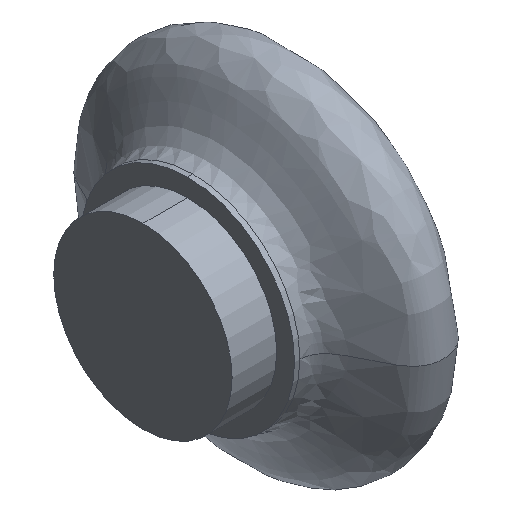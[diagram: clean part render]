
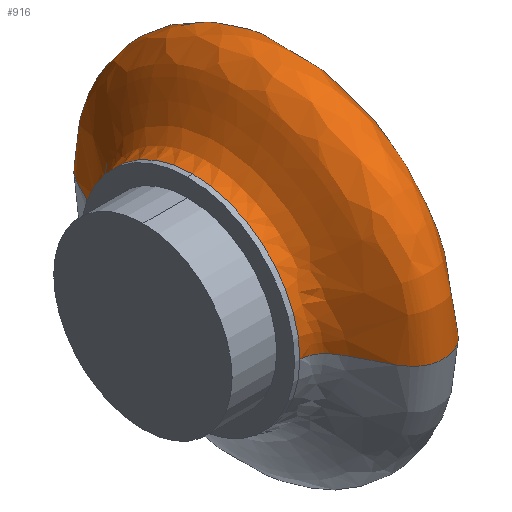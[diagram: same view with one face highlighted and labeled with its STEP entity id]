
A CAD part, isometric view. The second image highlights one B-rep face of the part: STEP entity #916.
In plain terms, the highlighted free-form (B-spline) face has degree [3, 3] with [6, 4] control points.
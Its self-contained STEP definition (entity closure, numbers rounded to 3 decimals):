
#16 = CARTESIAN_POINT ( 'NONE',  ( -45.263, -83.773, 404.746 ) ) ;
#17 = ORIENTED_EDGE ( 'NONE', *, *, #891, .T. ) ;
#21 = B_SPLINE_CURVE_WITH_KNOTS ( 'NONE', 3,
 ( #615, #22, #174, #1170, #1762, #909 ),
 .UNSPECIFIED., .F., .F.,
 ( 4, 1, 1, 4 ),
 ( 0., 0.394, 0.488, 0.833 ),
 .UNSPECIFIED. ) ;
#22 = CARTESIAN_POINT ( 'NONE',  ( -45.268, 77.414, 202.373 ) ) ;
#33 = VERTEX_POINT ( 'NONE', #120 ) ;
#43 = CARTESIAN_POINT ( 'NONE',  ( -63.328, -42.586, 322.373 ) ) ;
#50 = CARTESIAN_POINT ( 'NONE',  ( -63.328, 77.414, 322.373 ) ) ;
#58 = CARTESIAN_POINT ( 'NONE',  ( -2.385, 116.987, 202.373 ) ) ;
#61 = EDGE_LOOP ( 'NONE', ( #791, #17, #662, #1305, #1009 ) ) ;
#68 = CARTESIAN_POINT ( 'NONE',  ( 10.672, 81.671, 330.887 ) ) ;
#106 = DIRECTION ( 'NONE',  ( 0., -1., 0. ) ) ;
#112 = CARTESIAN_POINT ( 'NONE',  ( -63.328, -42.586, 202.373 ) ) ;
#120 = CARTESIAN_POINT ( 'NONE',  ( -63.328, 17.414, 262.373 ) ) ;
#157 = CARTESIAN_POINT ( 'NONE',  ( -45.263, 118.601, 404.746 ) ) ;
#174 = CARTESIAN_POINT ( 'NONE',  ( -45.263, 118.601, 202.373 ) ) ;
#202 = DIRECTION ( 'NONE',  ( 0., 0., -1. ) ) ;
#247 = CARTESIAN_POINT ( 'NONE',  ( 10.672, -46.843, 202.373 ) ) ;
#365 = CARTESIAN_POINT ( 'NONE',  ( -63.328, 17.414, 202.373 ) ) ;
#400 = DIRECTION ( 'NONE',  ( 1., 0., 0. ) ) ;
#417 = EDGE_CURVE ( 'NONE', #33, #1674, #1720, .T. ) ;
#448 = EDGE_CURVE ( 'NONE', #1515, #575, #1046, .T. ) ;
#451 = CARTESIAN_POINT ( 'NONE',  ( -45.268, -42.586, 322.373 ) ) ;
#491 = CARTESIAN_POINT ( 'NONE',  ( 10.672, 81.671, 202.373 ) ) ;
#562 = CARTESIAN_POINT ( 'NONE',  ( 0.722, -55.883, 202.373 ) ) ;
#575 = VERTEX_POINT ( 'NONE', #1615 ) ;
#603 = CARTESIAN_POINT ( 'NONE',  ( -63.328, 77.414, 202.373 ) ) ;
#615 = CARTESIAN_POINT ( 'NONE',  ( -63.328, 77.414, 202.373 ) ) ;
#636 = CARTESIAN_POINT ( 'NONE',  ( -45.263, 118.601, 202.373 ) ) ;
#653 = CARTESIAN_POINT ( 'NONE',  ( -2.385, 116.987, 401.52 ) ) ;
#662 = ORIENTED_EDGE ( 'NONE', *, *, #448, .F. ) ;
#761 = CARTESIAN_POINT ( 'NONE',  ( -63.328, -42.586, 202.373 ) ) ;
#791 = ORIENTED_EDGE ( 'NONE', *, *, #417, .T. ) ;
#796 = DIRECTION ( 'NONE',  ( 1., 0., 0. ) ) ;
#891 = EDGE_CURVE ( 'NONE', #1674, #575, #1456, .T. ) ;
#909 = CARTESIAN_POINT ( 'NONE',  ( 10.672, 81.671, 202.373 ) ) ;
#916 = ADVANCED_FACE ( 'NONE', ( #989 ), #1795, .T. ) ;
#945 = CIRCLE ( 'NONE', #1599, 60. ) ;
#989 = FACE_OUTER_BOUND ( 'NONE', #61, .T. ) ;
#1009 = ORIENTED_EDGE ( 'NONE', *, *, #1577, .T. ) ;
#1012 = VERTEX_POINT ( 'NONE', #1366 ) ;
#1045 = CARTESIAN_POINT ( 'NONE',  ( -45.268, 77.414, 322.373 ) ) ;
#1046 = CIRCLE ( 'NONE', #1189, 64.257 ) ;
#1070 = CARTESIAN_POINT ( 'NONE',  ( -63.328, -42.586, 202.373 ) ) ;
#1073 = CARTESIAN_POINT ( 'NONE',  ( -63.328, 17.414, 202.373 ) ) ;
#1082 = DIRECTION ( 'NONE',  ( 1., 0., 0. ) ) ;
#1107 = CARTESIAN_POINT ( 'NONE',  ( 10.672, -46.843, 202.373 ) ) ;
#1128 = CARTESIAN_POINT ( 'NONE',  ( -2.385, -82.159, 202.373 ) ) ;
#1131 = CARTESIAN_POINT ( 'NONE',  ( 10.672, 17.414, 202.373 ) ) ;
#1170 = CARTESIAN_POINT ( 'NONE',  ( -2.385, 116.987, 202.373 ) ) ;
#1189 = AXIS2_PLACEMENT_3D ( 'NONE', #1131, #400, #106 ) ;
#1205 = CARTESIAN_POINT ( 'NONE',  ( -2.385, -82.159, 202.373 ) ) ;
#1217 = CARTESIAN_POINT ( 'NONE',  ( 0.722, -55.883, 348.967 ) ) ;
#1223 = CARTESIAN_POINT ( 'NONE',  ( 10.672, 81.671, 202.373 ) ) ;
#1233 = CARTESIAN_POINT ( 'NONE',  ( 0.722, -55.883, 202.373 ) ) ;
#1305 = ORIENTED_EDGE ( 'NONE', *, *, #1358, .F. ) ;
#1346 = CARTESIAN_POINT ( 'NONE',  ( -45.268, -42.586, 202.373 ) ) ;
#1358 = EDGE_CURVE ( 'NONE', #1012, #1515, #21, .T. ) ;
#1366 = CARTESIAN_POINT ( 'NONE',  ( -63.328, 77.414, 202.373 ) ) ;
#1387 = AXIS2_PLACEMENT_3D ( 'NONE', #365, #1082, #1660 ) ;
#1413 = CARTESIAN_POINT ( 'NONE',  ( -45.268, -42.586, 202.373 ) ) ;
#1456 = B_SPLINE_CURVE_WITH_KNOTS ( 'NONE', 3,
 ( #112, #1413, #1572, #1128, #562, #247 ),
 .UNSPECIFIED., .F., .F.,
 ( 4, 1, 1, 4 ),
 ( 0., 0.394, 0.488, 0.833 ),
 .UNSPECIFIED. ) ;
#1458 = CARTESIAN_POINT ( 'NONE',  ( -2.385, -82.159, 401.52 ) ) ;
#1494 = CARTESIAN_POINT ( 'NONE',  ( -45.263, -83.773, 202.373 ) ) ;
#1515 = VERTEX_POINT ( 'NONE', #491 ) ;
#1519 = CARTESIAN_POINT ( 'NONE',  ( 10.672, -46.843, 330.887 ) ) ;
#1542 = CARTESIAN_POINT ( 'NONE',  ( 0.722, 90.711, 202.373 ) ) ;
#1572 = CARTESIAN_POINT ( 'NONE',  ( -45.263, -83.773, 202.373 ) ) ;
#1577 = EDGE_CURVE ( 'NONE', #1012, #33, #945, .T. ) ;
#1599 = AXIS2_PLACEMENT_3D ( 'NONE', #1073, #796, #202 ) ;
#1604 = CARTESIAN_POINT ( 'NONE',  ( -45.268, 77.414, 202.373 ) ) ;
#1615 = CARTESIAN_POINT ( 'NONE',  ( 10.672, -46.843, 202.373 ) ) ;
#1660 = DIRECTION ( 'NONE',  ( 0., 0., -1. ) ) ;
#1672 = CARTESIAN_POINT ( 'NONE',  ( 0.722, 90.711, 348.967 ) ) ;
#1674 = VERTEX_POINT ( 'NONE', #761 ) ;
#1720 = CIRCLE ( 'NONE', #1387, 60. ) ;
#1762 = CARTESIAN_POINT ( 'NONE',  ( 0.722, 90.711, 202.373 ) ) ;
#1795 =( BOUNDED_SURFACE ( )  B_SPLINE_SURFACE ( 3, 3, ( 
 ( #1070, #43, #50, #603 ),
 ( #1346, #451, #1045, #1604 ),
 ( #1494, #16, #157, #636 ),
 ( #1205, #1458, #653, #58 ),
 ( #1233, #1217, #1672, #1542 ),
 ( #1107, #1519, #68, #1223 ) ),
 .UNSPECIFIED., .F., .F., .F. ) 
 B_SPLINE_SURFACE_WITH_KNOTS ( ( 4, 1, 1, 4 ),
 ( 4, 4 ),
 ( 0., 0.394, 0.488, 0.833 ),
 ( 0., 1. ),
 .UNSPECIFIED. ) 
 GEOMETRIC_REPRESENTATION_ITEM ( )  RATIONAL_B_SPLINE_SURFACE ( (
 ( 1., 0.333, 0.333, 1.),
 ( 1., 0.333, 0.333, 1.),
 ( 1., 0.333, 0.333, 1.),
 ( 1., 0.333, 0.333, 1.),
 ( 1., 0.333, 0.333, 1.),
 ( 1., 0.333, 0.333, 1.) ) ) 
 REPRESENTATION_ITEM ( '' )  SURFACE ( )  );
